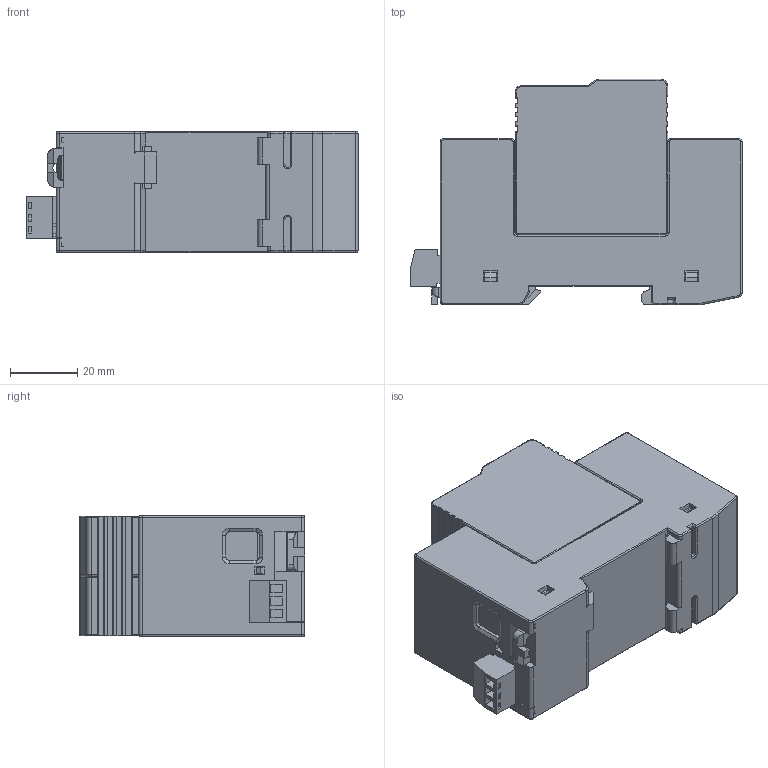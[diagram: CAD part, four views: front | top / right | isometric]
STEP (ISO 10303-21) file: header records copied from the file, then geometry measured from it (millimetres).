
FILE_DESCRIPTION(/* description */ (''),/* implementation_level */ '2;1');
FILE_NAME(/* name */ '2P-3D-2025',/* time_stamp */ '2025-11-15T16:07:02+08:00',/* author */ (''),/* organization */ (''),/* preprocessor_version */ 'ST-DEVELOPER v9',/* originating_system */ 'EDS PLM SOLUTIONS - UNIGRAPHICS NX 2.0',/* authorisation */ '');
FILE_SCHEMA (('AUTOMOTIVE_DESIGN { 1 0 10303 214 0 1 1 1 }'));
Length unit declared in the file: millimetre
Products named in the file (1): Admi444Frbg7
Bounding box: 99 x 67.2 x 35.9 mm (x, y, z)
Volume: 175992.7 mm3; surface area: 30019.6 mm2
Topology: 1 solids, 9 shells, 761 faces, 1941 edges, 1203 vertices
Faces by surface type: plane 442, cylinder 221, torus 55, bspline 18, cone 15, sphere 10
Full cylindrical faces by diameter (mm): 2.7 x3, 6 x2, 7 x5
Entity records: 22867 total; most frequent: CARTESIAN_POINT 4489, DIRECTION 3839, ORIENTED_EDGE 3790, EDGE_CURVE 1895, LINE 1343, VECTOR 1343, AXIS2_PLACEMENT_3D 1248, VERTEX_POINT 1193
